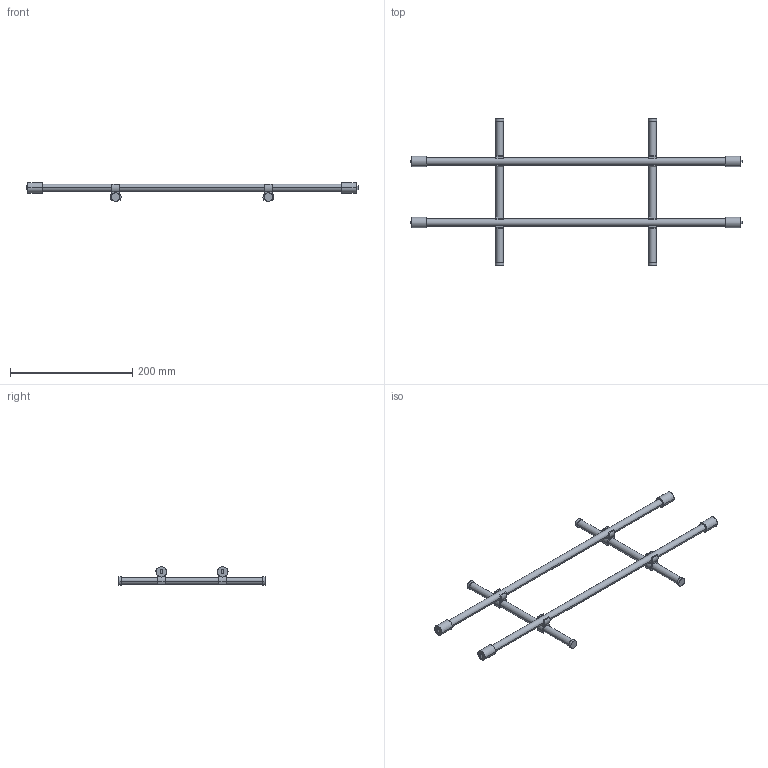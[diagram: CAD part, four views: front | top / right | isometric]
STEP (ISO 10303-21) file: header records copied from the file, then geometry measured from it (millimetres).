
FILE_DESCRIPTION (( 'STEP AP214' ), '1' );
FILE_NAME ('Magic-Classic_NL-275-KAB 600.step', '2010-09-16T12:49:11', ( 'grass' ), ( '' ), 'SwSTEP 2.0', 'SolidWorks 2010', '' );
FILE_SCHEMA (( 'AUTOMOTIVE_DESIGN' ));
Length unit declared in the file: millimetre
Products named in the file (1): Magic-Classic_NL-275-KAB 600
Bounding box: 543 x 240 x 30.45 mm (x, y, z)
Volume: 196308.1 mm3; surface area: 65118.7 mm2
Topology: 1 solids, 1 shells, 140 faces, 384 edges, 256 vertices
Faces by surface type: plane 76, cylinder 64
Entity records: 4546 total; most frequent: DIRECTION 826, CARTESIAN_POINT 781, ORIENTED_EDGE 768, EDGE_CURVE 384, AXIS2_PLACEMENT_3D 301, VERTEX_POINT 256, VECTOR 224, LINE 224
